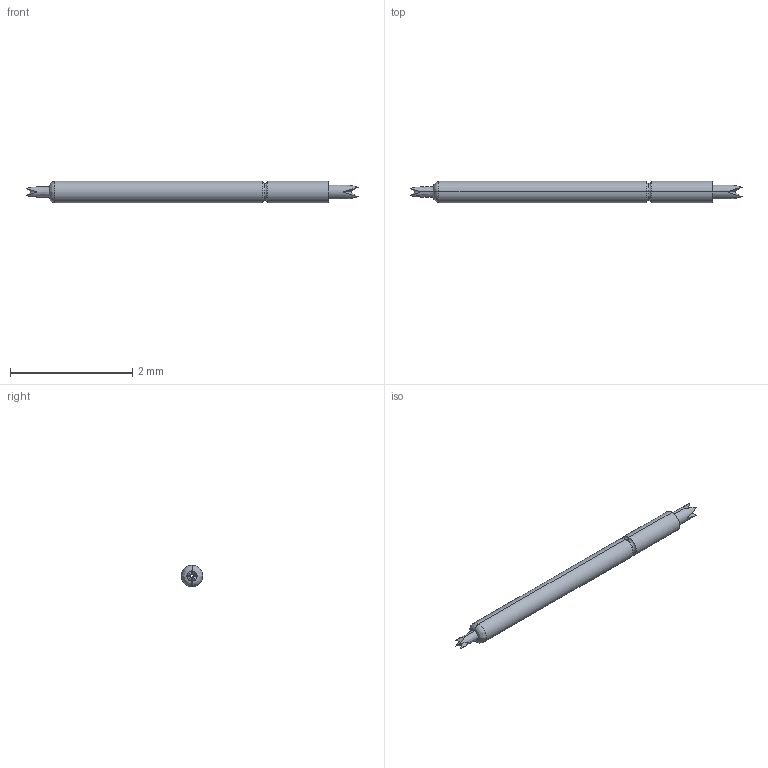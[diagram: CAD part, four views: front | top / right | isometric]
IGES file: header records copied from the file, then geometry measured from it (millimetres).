
Start section: SolidWorks IGES file using analytic representation for surfaces
Global section: file name: Z:\probe solid model mockups\Solidworks models\IGES Files\CSP5-18 IGES files\CSP5-18LL RECD.IGS; native system: SolidWorks 2006 by SolidWorks Corporation; preprocessor: SolidWorks 2006 by SolidWorks Corporation; author: tsakatani; date: 080108.142711; units: inch
Bounding box: 5.44 x 0.35 x 0.35 mm (x, y, z)
Surface area: 5.7 mm2 (no closed solid volume)
Topology: 0 solids, 0 shells, 31 faces, 180 edges, 180 vertices
Faces by surface type: bspline 23, revolution 8
